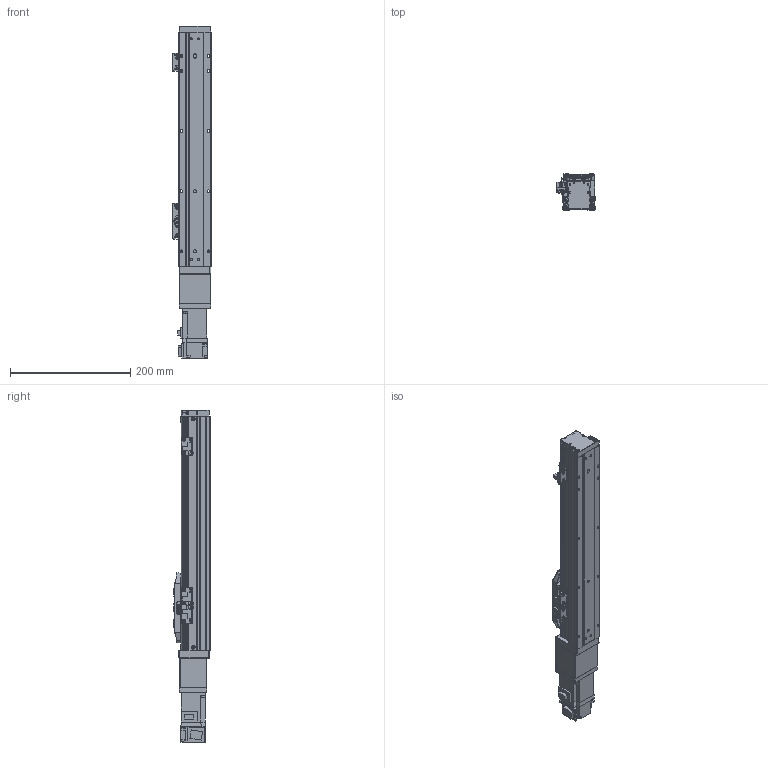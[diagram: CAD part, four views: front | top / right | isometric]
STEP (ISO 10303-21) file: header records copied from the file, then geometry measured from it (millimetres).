
FILE_DESCRIPTION (( 'STEP AP203' ), '1' );
FILE_NAME ('GTH5-250-BC-M10-C4.step', '2022-09-23T00:39:30', ( '微软用户' ), ( '微软中国' ), 'SwSTEP 2.0', 'SolidWorks 2020', '' );
FILE_SCHEMA (( 'CONFIG_CONTROL_DESIGN' ));
Length unit declared in the file: millimetre
Products named in the file (20): GTH50-003; GTH50-028; GTH50-006; GTH50-013; GTH50-022-1; GTH50-004; GTH50-023; CTHA60-027; GBT 70.3-M3℅6; GBT 70.1-M3℅6; CTHA60-013; BTH-M3X5X6; GBT96.1-2002 3×0.8; CTHA60-006-2_CTHA60-006-1; GTH50-001_250; GTH50-024; HG-KR13; GBT 70.1-M4×16; GBT 70.1-M2.5×6; GTH5-250-BC-M10-C4
Assembly tree (60 placements, depth 2):
  GTH5-250-BC-M10-C4
    GTH50-006
    GTH50-004
    GBT 70.3-M3℅6  x6
    BTH-M3X5X6  x8
    GTH50-001_250
    GBT 70.1-M4×16  x8
    GTH50-003
    GTH50-013
    GTH50-023  x3
    GBT 70.1-M3℅6  x12
    GBT96.1-2002 3×0.8  x6
    GTH50-024  x3
    GBT 70.1-M2.5×6  x2
    GTH50-028  x2
    GTH50-022-1
    CTHA60-027
    CTHA60-013
    CTHA60-006-2_CTHA60-006-1
    HG-KR13
Bounding box: 63.8 x 60 x 552.6 mm (x, y, z)
Volume: 1157760.3 mm3; surface area: 212064.4 mm2
Topology: 62 solids, 62 shells, 2041 faces, 4680 edges, 2854 vertices
Faces by surface type: plane 1105, cylinder 535, cone 235, torus 158, sphere 8
Entity records: 33811 total; most frequent: DIRECTION 5451, CARTESIAN_POINT 5343, ORIENTED_EDGE 5046, EDGE_CURVE 2523, AXIS2_PLACEMENT_3D 1868, LINE 1715, VECTOR 1715, VERTEX_POINT 1594
